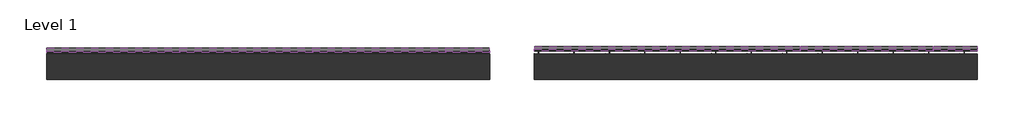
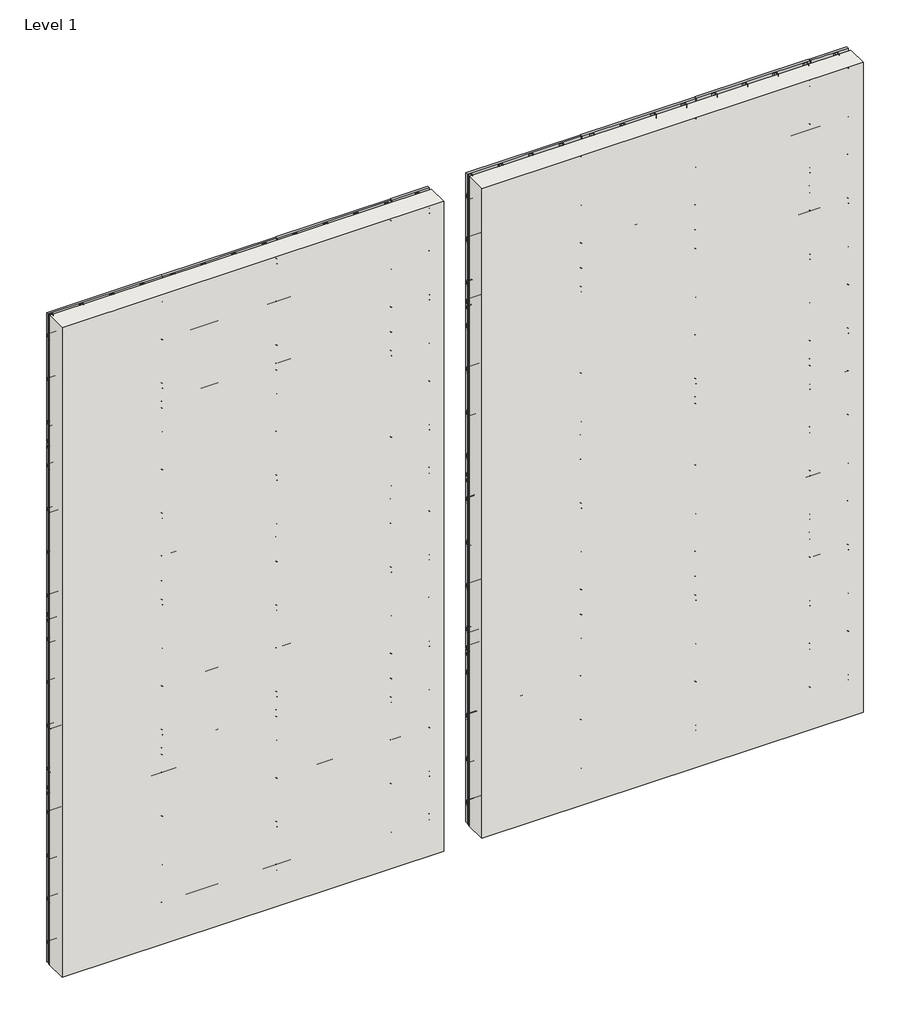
# One storey, incomplete: 32 plates, 24 members, 2 fasteners, 2 walls.
"""IFC4 building model written with IfcOpenShell, lengths in millimetres."""

from ifc_helpers import new_model, si_unit, origin, origin_with_axes, place, context, project, spatial, polyline, outline, extrude, transform, mapped, element, save
from components import fastener_92f4360e, fastener_d01256d0, rectangular_mullion_kws_revealrail_mullion_9bbd98a8, rectangular_mullion_kws_revealrail_mullion_add762a1, rectangular_mullion_kws_revealrail_mullion_47fc8865, plate_96b6a4fe, plate_c225038f, plate_bb21e225, plate_c696ad90

model = new_model("IFC4")

# Units and contexts
model_context = context("Model", 3, world=origin())
ifc_project = project(units=[si_unit("LENGTHUNIT", "METRE", prefix="MILLI")], contexts=[model_context])

# Site, building, storey
site = spatial("IfcSite", under=ifc_project)
building = spatial("IfcBuilding", under=site)
storey = spatial("IfcBuildingStorey", under=building, Name="Level 1", Elevation=0.0)

# Fasteners
placement = place(None, origin())
fastener_shape = fastener_92f4360e(model_context)
element("IfcFastener", 1, ObjectType="Knight-Wall-Systems_CI-Girt : CI-Girt™ (STANDARD)", at=placement, inside=storey, context=model_context, shape_type="MappedRepresentation", body=[
    mapped(fastener_shape, transform((1331.976474, 7335.6586092, 0.0), x_axis=(1.0, 0.0, 0.0), y_axis=(0.0, 1.0, 0.0), z_axis=(0.0, 0.0, 1.0))),
])
fastener_2_shape = fastener_d01256d0(model_context)
element("IfcFastener", 2, ObjectType="Knight-Wall-Systems_CI-Girt : CI-Girt™ 150", at=placement, inside=storey, context=model_context, shape_type="MappedRepresentation", body=[
    mapped(fastener_2_shape, transform((6919.976474, 7335.6586092, 0.0), x_axis=(1.0, 0.0, 0.0), y_axis=(0.0, 1.0, 0.0), z_axis=(0.0, 0.0, 1.0))),
])

# Members
rectangular_mullion_kws_revealrail_mullion_shape = rectangular_mullion_kws_revealrail_mullion_9bbd98a8(model_context)
element("IfcMember", 3, ObjectType="Rectangular Mullion : KWS_RevealRail_Mullion", at=placement, inside=storey, context=model_context, shape_type="MappedRepresentation", body=[
    mapped(rectangular_mullion_kws_revealrail_mullion_shape, transform((2855.9764743, 7354.7086092, 2438.4), x_axis=(0.0, 0.0, 1.0), y_axis=(0.0, -1.0, 0.0), z_axis=(1.0, 0.0, 0.0))),
])
element("IfcMember", 4, ObjectType="Rectangular Mullion : KWS_RevealRail_Mullion", at=placement, inside=storey, context=model_context, shape_type="MappedRepresentation", body=[
    mapped(rectangular_mullion_kws_revealrail_mullion_shape, transform((2855.9764743, 7354.7086092, 4876.8), x_axis=(0.0, 0.0, 1.0), y_axis=(0.0, -1.0, 0.0), z_axis=(1.0, 0.0, 0.0))),
])
element("IfcMember", 5, ObjectType="Rectangular Mullion : KWS_RevealRail_Mullion", at=placement, inside=storey, context=model_context, shape_type="MappedRepresentation", body=[
    mapped(rectangular_mullion_kws_revealrail_mullion_shape, transform((2855.9764743, 7354.7086092, 7315.2), x_axis=(0.0, 0.0, 1.0), y_axis=(0.0, -1.0, 0.0), z_axis=(1.0, 0.0, 0.0))),
])
element("IfcMember", 6, ObjectType="Rectangular Mullion : KWS_RevealRail_Mullion", at=placement, inside=storey, context=model_context, shape_type="MappedRepresentation", body=[
    mapped(rectangular_mullion_kws_revealrail_mullion_shape, transform((8443.9764743, 7373.7586092, 2438.4), x_axis=(0.0, 0.0, 1.0), y_axis=(0.0, -1.0, 0.0), z_axis=(1.0, 0.0, 0.0))),
])
element("IfcMember", 7, ObjectType="Rectangular Mullion : KWS_RevealRail_Mullion", at=placement, inside=storey, context=model_context, shape_type="MappedRepresentation", body=[
    mapped(rectangular_mullion_kws_revealrail_mullion_shape, transform((8443.9764743, 7373.7586092, 4876.8), x_axis=(0.0, 0.0, 1.0), y_axis=(0.0, -1.0, 0.0), z_axis=(1.0, 0.0, 0.0))),
])
element("IfcMember", 8, ObjectType="Rectangular Mullion : KWS_RevealRail_Mullion", at=placement, inside=storey, context=model_context, shape_type="MappedRepresentation", body=[
    mapped(rectangular_mullion_kws_revealrail_mullion_shape, transform((8443.9764743, 7373.7586092, 7315.2), x_axis=(0.0, 0.0, 1.0), y_axis=(0.0, -1.0, 0.0), z_axis=(1.0, 0.0, 0.0))),
])
rectangular_mullion_kws_revealrail_mullion_2_shape = rectangular_mullion_kws_revealrail_mullion_add762a1(model_context)
element("IfcMember", 9, ObjectType="Rectangular Mullion : KWS_RevealRail_Mullion", at=placement, inside=storey, context=model_context, shape_type="MappedRepresentation", body=[
    mapped(rectangular_mullion_kws_revealrail_mullion_2_shape, transform((4379.9764743, 7354.7086092, 2438.4), x_axis=(0.0, 0.0, 1.0), y_axis=(0.0, -1.0, 0.0), z_axis=(1.0, 0.0, 0.0))),
])
element("IfcMember", 10, ObjectType="Rectangular Mullion : KWS_RevealRail_Mullion", at=placement, inside=storey, context=model_context, shape_type="MappedRepresentation", body=[
    mapped(rectangular_mullion_kws_revealrail_mullion_2_shape, transform((5903.9764743, 7354.7086092, 2438.4), x_axis=(0.0, 0.0, 1.0), y_axis=(0.0, -1.0, 0.0), z_axis=(1.0, 0.0, 0.0))),
])
element("IfcMember", 11, ObjectType="Rectangular Mullion : KWS_RevealRail_Mullion", at=placement, inside=storey, context=model_context, shape_type="MappedRepresentation", body=[
    mapped(rectangular_mullion_kws_revealrail_mullion_2_shape, transform((4379.9764743, 7354.7086092, 4876.8), x_axis=(0.0, 0.0, 1.0), y_axis=(0.0, -1.0, 0.0), z_axis=(1.0, 0.0, 0.0))),
])
element("IfcMember", 12, ObjectType="Rectangular Mullion : KWS_RevealRail_Mullion", at=placement, inside=storey, context=model_context, shape_type="MappedRepresentation", body=[
    mapped(rectangular_mullion_kws_revealrail_mullion_2_shape, transform((5903.9764743, 7354.7086092, 4876.8), x_axis=(0.0, 0.0, 1.0), y_axis=(0.0, -1.0, 0.0), z_axis=(1.0, 0.0, 0.0))),
])
element("IfcMember", 13, ObjectType="Rectangular Mullion : KWS_RevealRail_Mullion", at=placement, inside=storey, context=model_context, shape_type="MappedRepresentation", body=[
    mapped(rectangular_mullion_kws_revealrail_mullion_2_shape, transform((4379.9764743, 7354.7086092, 7315.2), x_axis=(0.0, 0.0, 1.0), y_axis=(0.0, -1.0, 0.0), z_axis=(1.0, 0.0, 0.0))),
])
element("IfcMember", 14, ObjectType="Rectangular Mullion : KWS_RevealRail_Mullion", at=placement, inside=storey, context=model_context, shape_type="MappedRepresentation", body=[
    mapped(rectangular_mullion_kws_revealrail_mullion_2_shape, transform((5903.9764743, 7354.7086092, 7315.2), x_axis=(0.0, 0.0, 1.0), y_axis=(0.0, -1.0, 0.0), z_axis=(1.0, 0.0, 0.0))),
])
element("IfcMember", 15, ObjectType="Rectangular Mullion : KWS_RevealRail_Mullion", at=placement, inside=storey, context=model_context, shape_type="MappedRepresentation", body=[
    mapped(rectangular_mullion_kws_revealrail_mullion_2_shape, transform((9967.9764743, 7373.7586092, 2438.4), x_axis=(0.0, 0.0, 1.0), y_axis=(0.0, -1.0, 0.0), z_axis=(1.0, 0.0, 0.0))),
])
element("IfcMember", 16, ObjectType="Rectangular Mullion : KWS_RevealRail_Mullion", at=placement, inside=storey, context=model_context, shape_type="MappedRepresentation", body=[
    mapped(rectangular_mullion_kws_revealrail_mullion_2_shape, transform((11491.9764743, 7373.7586092, 2438.4), x_axis=(0.0, 0.0, 1.0), y_axis=(0.0, -1.0, 0.0), z_axis=(1.0, 0.0, 0.0))),
])
element("IfcMember", 17, ObjectType="Rectangular Mullion : KWS_RevealRail_Mullion", at=placement, inside=storey, context=model_context, shape_type="MappedRepresentation", body=[
    mapped(rectangular_mullion_kws_revealrail_mullion_2_shape, transform((9967.9764743, 7373.7586092, 4876.8), x_axis=(0.0, 0.0, 1.0), y_axis=(0.0, -1.0, 0.0), z_axis=(1.0, 0.0, 0.0))),
])
element("IfcMember", 18, ObjectType="Rectangular Mullion : KWS_RevealRail_Mullion", at=placement, inside=storey, context=model_context, shape_type="MappedRepresentation", body=[
    mapped(rectangular_mullion_kws_revealrail_mullion_2_shape, transform((11491.9764743, 7373.7586092, 4876.8), x_axis=(0.0, 0.0, 1.0), y_axis=(0.0, -1.0, 0.0), z_axis=(1.0, 0.0, 0.0))),
])
element("IfcMember", 19, ObjectType="Rectangular Mullion : KWS_RevealRail_Mullion", at=placement, inside=storey, context=model_context, shape_type="MappedRepresentation", body=[
    mapped(rectangular_mullion_kws_revealrail_mullion_2_shape, transform((9967.9764743, 7373.7586092, 7315.2), x_axis=(0.0, 0.0, 1.0), y_axis=(0.0, -1.0, 0.0), z_axis=(1.0, 0.0, 0.0))),
])
element("IfcMember", 20, ObjectType="Rectangular Mullion : KWS_RevealRail_Mullion", at=placement, inside=storey, context=model_context, shape_type="MappedRepresentation", body=[
    mapped(rectangular_mullion_kws_revealrail_mullion_2_shape, transform((11491.9764743, 7373.7586092, 7315.2), x_axis=(0.0, 0.0, 1.0), y_axis=(0.0, -1.0, 0.0), z_axis=(1.0, 0.0, 0.0))),
])
rectangular_mullion_kws_revealrail_mullion_3_shape = rectangular_mullion_kws_revealrail_mullion_47fc8865(model_context)
element("IfcMember", 21, ObjectType="Rectangular Mullion : KWS_RevealRail_Mullion", at=placement, inside=storey, context=model_context, shape_type="MappedRepresentation", body=[
    mapped(rectangular_mullion_kws_revealrail_mullion_3_shape, transform((6411.976474, 7354.7086092, 2438.4), x_axis=(0.0, 0.0, 1.0), y_axis=(0.0, -1.0, 0.0), z_axis=(1.0, 0.0, 0.0))),
])
element("IfcMember", 22, ObjectType="Rectangular Mullion : KWS_RevealRail_Mullion", at=placement, inside=storey, context=model_context, shape_type="MappedRepresentation", body=[
    mapped(rectangular_mullion_kws_revealrail_mullion_3_shape, transform((6411.976474, 7354.7086092, 4876.8), x_axis=(0.0, 0.0, 1.0), y_axis=(0.0, -1.0, 0.0), z_axis=(1.0, 0.0, 0.0))),
])
element("IfcMember", 23, ObjectType="Rectangular Mullion : KWS_RevealRail_Mullion", at=placement, inside=storey, context=model_context, shape_type="MappedRepresentation", body=[
    mapped(rectangular_mullion_kws_revealrail_mullion_3_shape, transform((6411.976474, 7354.7086092, 7315.2), x_axis=(0.0, 0.0, 1.0), y_axis=(0.0, -1.0, 0.0), z_axis=(1.0, 0.0, 0.0))),
])
element("IfcMember", 24, ObjectType="Rectangular Mullion : KWS_RevealRail_Mullion", at=placement, inside=storey, context=model_context, shape_type="MappedRepresentation", body=[
    mapped(rectangular_mullion_kws_revealrail_mullion_3_shape, transform((11999.976474, 7373.7586092, 2438.4), x_axis=(0.0, 0.0, 1.0), y_axis=(0.0, -1.0, 0.0), z_axis=(1.0, 0.0, 0.0))),
])
element("IfcMember", 25, ObjectType="Rectangular Mullion : KWS_RevealRail_Mullion", at=placement, inside=storey, context=model_context, shape_type="MappedRepresentation", body=[
    mapped(rectangular_mullion_kws_revealrail_mullion_3_shape, transform((11999.976474, 7373.7586092, 4876.8), x_axis=(0.0, 0.0, 1.0), y_axis=(0.0, -1.0, 0.0), z_axis=(1.0, 0.0, 0.0))),
])
element("IfcMember", 26, ObjectType="Rectangular Mullion : KWS_RevealRail_Mullion", at=placement, inside=storey, context=model_context, shape_type="MappedRepresentation", body=[
    mapped(rectangular_mullion_kws_revealrail_mullion_3_shape, transform((11999.976474, 7373.7586092, 7315.2), x_axis=(0.0, 0.0, 1.0), y_axis=(0.0, -1.0, 0.0), z_axis=(1.0, 0.0, 0.0))),
])

# Plates
plate_shape = plate_96b6a4fe(model_context)
element("IfcPlate", 27, ObjectType="KWS_Generic-Panel_w_PanelRail-H : 2\" x 3/4\"", at=placement, inside=storey, context=model_context, shape_type="MappedRepresentation", body=[
    mapped(plate_shape, transform((2093.9764741, 7354.7086092, 0.0), x_axis=(1.0, 0.0, 0.0), y_axis=(0.0, 1.0, 0.0), z_axis=(0.0, 0.0, 1.0))),
])
element("IfcPlate", 28, ObjectType="KWS_Generic-Panel_w_PanelRail-H : 2\" x 3/4\"", at=placement, inside=storey, context=model_context, shape_type="MappedRepresentation", body=[
    mapped(plate_shape, transform((3617.9764743, 7354.7086092, 0.0), x_axis=(1.0, 0.0, 0.0), y_axis=(0.0, 1.0, 0.0), z_axis=(0.0, 0.0, 1.0))),
])
element("IfcPlate", 29, ObjectType="KWS_Generic-Panel_w_PanelRail-H : 2\" x 3/4\"", at=placement, inside=storey, context=model_context, shape_type="MappedRepresentation", body=[
    mapped(plate_shape, transform((5141.9764743, 7354.7086092, 0.0), x_axis=(1.0, 0.0, 0.0), y_axis=(0.0, 1.0, 0.0), z_axis=(0.0, 0.0, 1.0))),
])
element("IfcPlate", 30, ObjectType="KWS_Generic-Panel_w_PanelRail-H : 2\" x 3/4\"", at=placement, inside=storey, context=model_context, shape_type="MappedRepresentation", body=[
    mapped(plate_shape, transform((2093.9764741, 7354.7086092, 2438.4), x_axis=(1.0, 0.0, 0.0), y_axis=(0.0, 1.0, 0.0), z_axis=(0.0, 0.0, 1.0))),
])
element("IfcPlate", 31, ObjectType="KWS_Generic-Panel_w_PanelRail-H : 2\" x 3/4\"", at=placement, inside=storey, context=model_context, shape_type="MappedRepresentation", body=[
    mapped(plate_shape, transform((3617.9764743, 7354.7086092, 2438.4), x_axis=(1.0, 0.0, 0.0), y_axis=(0.0, 1.0, 0.0), z_axis=(0.0, 0.0, 1.0))),
])
element("IfcPlate", 32, ObjectType="KWS_Generic-Panel_w_PanelRail-H : 2\" x 3/4\"", at=placement, inside=storey, context=model_context, shape_type="MappedRepresentation", body=[
    mapped(plate_shape, transform((5141.9764743, 7354.7086092, 2438.4), x_axis=(1.0, 0.0, 0.0), y_axis=(0.0, 1.0, 0.0), z_axis=(0.0, 0.0, 1.0))),
])
element("IfcPlate", 33, ObjectType="KWS_Generic-Panel_w_PanelRail-H : 2\" x 3/4\"", at=placement, inside=storey, context=model_context, shape_type="MappedRepresentation", body=[
    mapped(plate_shape, transform((2093.9764741, 7354.7086092, 4876.8), x_axis=(1.0, 0.0, 0.0), y_axis=(0.0, 1.0, 0.0), z_axis=(0.0, 0.0, 1.0))),
])
element("IfcPlate", 34, ObjectType="KWS_Generic-Panel_w_PanelRail-H : 2\" x 3/4\"", at=placement, inside=storey, context=model_context, shape_type="MappedRepresentation", body=[
    mapped(plate_shape, transform((3617.9764743, 7354.7086092, 4876.8), x_axis=(1.0, 0.0, 0.0), y_axis=(0.0, 1.0, 0.0), z_axis=(0.0, 0.0, 1.0))),
])
element("IfcPlate", 35, ObjectType="KWS_Generic-Panel_w_PanelRail-H : 2\" x 3/4\"", at=placement, inside=storey, context=model_context, shape_type="MappedRepresentation", body=[
    mapped(plate_shape, transform((5141.9764743, 7354.7086092, 4876.8), x_axis=(1.0, 0.0, 0.0), y_axis=(0.0, 1.0, 0.0), z_axis=(0.0, 0.0, 1.0))),
])
element("IfcPlate", 36, ObjectType="KWS_Generic-Panel_w_PanelRail-H : 2\" x 3/4\"", at=placement, inside=storey, context=model_context, shape_type="MappedRepresentation", body=[
    mapped(plate_shape, transform((7681.9764741, 7373.7586092, 0.0), x_axis=(1.0, 0.0, 0.0), y_axis=(0.0, 1.0, 0.0), z_axis=(0.0, 0.0, 1.0))),
])
element("IfcPlate", 37, ObjectType="KWS_Generic-Panel_w_PanelRail-H : 2\" x 3/4\"", at=placement, inside=storey, context=model_context, shape_type="MappedRepresentation", body=[
    mapped(plate_shape, transform((9205.9764743, 7373.7586092, 0.0), x_axis=(1.0, 0.0, 0.0), y_axis=(0.0, 1.0, 0.0), z_axis=(0.0, 0.0, 1.0))),
])
element("IfcPlate", 38, ObjectType="KWS_Generic-Panel_w_PanelRail-H : 2\" x 3/4\"", at=placement, inside=storey, context=model_context, shape_type="MappedRepresentation", body=[
    mapped(plate_shape, transform((10729.9764743, 7373.7586092, 0.0), x_axis=(1.0, 0.0, 0.0), y_axis=(0.0, 1.0, 0.0), z_axis=(0.0, 0.0, 1.0))),
])
element("IfcPlate", 39, ObjectType="KWS_Generic-Panel_w_PanelRail-H : 2\" x 3/4\"", at=placement, inside=storey, context=model_context, shape_type="MappedRepresentation", body=[
    mapped(plate_shape, transform((7681.9764741, 7373.7586092, 2438.4), x_axis=(1.0, 0.0, 0.0), y_axis=(0.0, 1.0, 0.0), z_axis=(0.0, 0.0, 1.0))),
])
element("IfcPlate", 40, ObjectType="KWS_Generic-Panel_w_PanelRail-H : 2\" x 3/4\"", at=placement, inside=storey, context=model_context, shape_type="MappedRepresentation", body=[
    mapped(plate_shape, transform((9205.9764743, 7373.7586092, 2438.4), x_axis=(1.0, 0.0, 0.0), y_axis=(0.0, 1.0, 0.0), z_axis=(0.0, 0.0, 1.0))),
])
element("IfcPlate", 41, ObjectType="KWS_Generic-Panel_w_PanelRail-H : 2\" x 3/4\"", at=placement, inside=storey, context=model_context, shape_type="MappedRepresentation", body=[
    mapped(plate_shape, transform((10729.9764743, 7373.7586092, 2438.4), x_axis=(1.0, 0.0, 0.0), y_axis=(0.0, 1.0, 0.0), z_axis=(0.0, 0.0, 1.0))),
])
element("IfcPlate", 42, ObjectType="KWS_Generic-Panel_w_PanelRail-H : 2\" x 3/4\"", at=placement, inside=storey, context=model_context, shape_type="MappedRepresentation", body=[
    mapped(plate_shape, transform((7681.9764741, 7373.7586092, 4876.8), x_axis=(1.0, 0.0, 0.0), y_axis=(0.0, 1.0, 0.0), z_axis=(0.0, 0.0, 1.0))),
])
element("IfcPlate", 43, ObjectType="KWS_Generic-Panel_w_PanelRail-H : 2\" x 3/4\"", at=placement, inside=storey, context=model_context, shape_type="MappedRepresentation", body=[
    mapped(plate_shape, transform((9205.9764743, 7373.7586092, 4876.8), x_axis=(1.0, 0.0, 0.0), y_axis=(0.0, 1.0, 0.0), z_axis=(0.0, 0.0, 1.0))),
])
element("IfcPlate", 44, ObjectType="KWS_Generic-Panel_w_PanelRail-H : 2\" x 3/4\"", at=placement, inside=storey, context=model_context, shape_type="MappedRepresentation", body=[
    mapped(plate_shape, transform((10729.9764743, 7373.7586092, 4876.8), x_axis=(1.0, 0.0, 0.0), y_axis=(0.0, 1.0, 0.0), z_axis=(0.0, 0.0, 1.0))),
])
plate_2_shape = plate_c225038f(model_context)
element("IfcPlate", 45, ObjectType="KWS_Generic-Panel_w_PanelRail-H : 2\" x 3/4\"", at=placement, inside=storey, context=model_context, shape_type="MappedRepresentation", body=[
    mapped(plate_2_shape, transform((6157.9764741, 7354.7086092, 0.0), x_axis=(1.0, 0.0, 0.0), y_axis=(0.0, 1.0, 0.0), z_axis=(0.0, 0.0, 1.0))),
])
element("IfcPlate", 46, ObjectType="KWS_Generic-Panel_w_PanelRail-H : 2\" x 3/4\"", at=placement, inside=storey, context=model_context, shape_type="MappedRepresentation", body=[
    mapped(plate_2_shape, transform((6157.9764741, 7354.7086092, 2438.4), x_axis=(1.0, 0.0, 0.0), y_axis=(0.0, 1.0, 0.0), z_axis=(0.0, 0.0, 1.0))),
])
element("IfcPlate", 47, ObjectType="KWS_Generic-Panel_w_PanelRail-H : 2\" x 3/4\"", at=placement, inside=storey, context=model_context, shape_type="MappedRepresentation", body=[
    mapped(plate_2_shape, transform((6157.9764741, 7354.7086092, 4876.8), x_axis=(1.0, 0.0, 0.0), y_axis=(0.0, 1.0, 0.0), z_axis=(0.0, 0.0, 1.0))),
])
element("IfcPlate", 48, ObjectType="KWS_Generic-Panel_w_PanelRail-H : 2\" x 3/4\"", at=placement, inside=storey, context=model_context, shape_type="MappedRepresentation", body=[
    mapped(plate_2_shape, transform((11745.9764741, 7373.7586092, 0.0), x_axis=(1.0, 0.0, 0.0), y_axis=(0.0, 1.0, 0.0), z_axis=(0.0, 0.0, 1.0))),
])
element("IfcPlate", 49, ObjectType="KWS_Generic-Panel_w_PanelRail-H : 2\" x 3/4\"", at=placement, inside=storey, context=model_context, shape_type="MappedRepresentation", body=[
    mapped(plate_2_shape, transform((11745.9764741, 7373.7586092, 2438.4), x_axis=(1.0, 0.0, 0.0), y_axis=(0.0, 1.0, 0.0), z_axis=(0.0, 0.0, 1.0))),
])
element("IfcPlate", 50, ObjectType="KWS_Generic-Panel_w_PanelRail-H : 2\" x 3/4\"", at=placement, inside=storey, context=model_context, shape_type="MappedRepresentation", body=[
    mapped(plate_2_shape, transform((11745.9764741, 7373.7586092, 4876.8), x_axis=(1.0, 0.0, 0.0), y_axis=(0.0, 1.0, 0.0), z_axis=(0.0, 0.0, 1.0))),
])
plate_3_shape = plate_bb21e225(model_context)
element("IfcPlate", 51, ObjectType="KWS_Generic-Panel_w_PanelRail-H : 2\" x 3/4\"", at=placement, inside=storey, context=model_context, shape_type="MappedRepresentation", body=[
    mapped(plate_3_shape, transform((2093.9764741, 7354.7086092, 7315.2), x_axis=(1.0, 0.0, 0.0), y_axis=(0.0, 1.0, 0.0), z_axis=(0.0, 0.0, 1.0))),
])
element("IfcPlate", 52, ObjectType="KWS_Generic-Panel_w_PanelRail-H : 2\" x 3/4\"", at=placement, inside=storey, context=model_context, shape_type="MappedRepresentation", body=[
    mapped(plate_3_shape, transform((3617.9764743, 7354.7086092, 7315.2), x_axis=(1.0, 0.0, 0.0), y_axis=(0.0, 1.0, 0.0), z_axis=(0.0, 0.0, 1.0))),
])
element("IfcPlate", 53, ObjectType="KWS_Generic-Panel_w_PanelRail-H : 2\" x 3/4\"", at=placement, inside=storey, context=model_context, shape_type="MappedRepresentation", body=[
    mapped(plate_3_shape, transform((5141.9764743, 7354.7086092, 7315.2), x_axis=(1.0, 0.0, 0.0), y_axis=(0.0, 1.0, 0.0), z_axis=(0.0, 0.0, 1.0))),
])
element("IfcPlate", 54, ObjectType="KWS_Generic-Panel_w_PanelRail-H : 2\" x 3/4\"", at=placement, inside=storey, context=model_context, shape_type="MappedRepresentation", body=[
    mapped(plate_3_shape, transform((7681.9764741, 7373.7586092, 7315.2), x_axis=(1.0, 0.0, 0.0), y_axis=(0.0, 1.0, 0.0), z_axis=(0.0, 0.0, 1.0))),
])
element("IfcPlate", 55, ObjectType="KWS_Generic-Panel_w_PanelRail-H : 2\" x 3/4\"", at=placement, inside=storey, context=model_context, shape_type="MappedRepresentation", body=[
    mapped(plate_3_shape, transform((9205.9764743, 7373.7586092, 7315.2), x_axis=(1.0, 0.0, 0.0), y_axis=(0.0, 1.0, 0.0), z_axis=(0.0, 0.0, 1.0))),
])
element("IfcPlate", 56, ObjectType="KWS_Generic-Panel_w_PanelRail-H : 2\" x 3/4\"", at=placement, inside=storey, context=model_context, shape_type="MappedRepresentation", body=[
    mapped(plate_3_shape, transform((10729.9764743, 7373.7586092, 7315.2), x_axis=(1.0, 0.0, 0.0), y_axis=(0.0, 1.0, 0.0), z_axis=(0.0, 0.0, 1.0))),
])
plate_4_shape = plate_c696ad90(model_context)
element("IfcPlate", 57, ObjectType="KWS_Generic-Panel_w_PanelRail-H : 2\" x 3/4\"", at=placement, inside=storey, context=model_context, shape_type="MappedRepresentation", body=[
    mapped(plate_4_shape, transform((6157.9764741, 7354.7086092, 7315.2), x_axis=(1.0, 0.0, 0.0), y_axis=(0.0, 1.0, 0.0), z_axis=(0.0, 0.0, 1.0))),
])
element("IfcPlate", 58, ObjectType="KWS_Generic-Panel_w_PanelRail-H : 2\" x 3/4\"", at=placement, inside=storey, context=model_context, shape_type="MappedRepresentation", body=[
    mapped(plate_4_shape, transform((11745.9764741, 7373.7586092, 7315.2), x_axis=(1.0, 0.0, 0.0), y_axis=(0.0, 1.0, 0.0), z_axis=(0.0, 0.0, 1.0))),
])

# Walls
element("IfcWall", 59, ObjectType="Exterior - Backup Wall System - Concrete Block", at=placement, inside=storey, context=model_context, shape_type="SweptSolid", body=[
    extrude(outline(polyline([(6411.976474, 7046.7336092), (1331.976474, 7046.7336092), (1331.976474, 7335.6586092), (6411.976474, 7335.6586092), (6411.976474, 7046.7336092)])), origin_with_axes(), (0.0, 0.0, 1.0), 9144.0),
])
element("IfcWall", 60, ObjectType="Exterior - Backup Wall System - Concrete Block", at=placement, inside=storey, context=model_context, shape_type="SweptSolid", body=[
    extrude(outline(polyline([(11999.976474, 7046.7336092), (6919.976474, 7046.7336092), (6919.976474, 7335.6586092), (11999.976474, 7335.6586092), (11999.976474, 7046.7336092)])), origin_with_axes(), (0.0, 0.0, 1.0), 9144.0),
])

save(model, "model.ifc")
